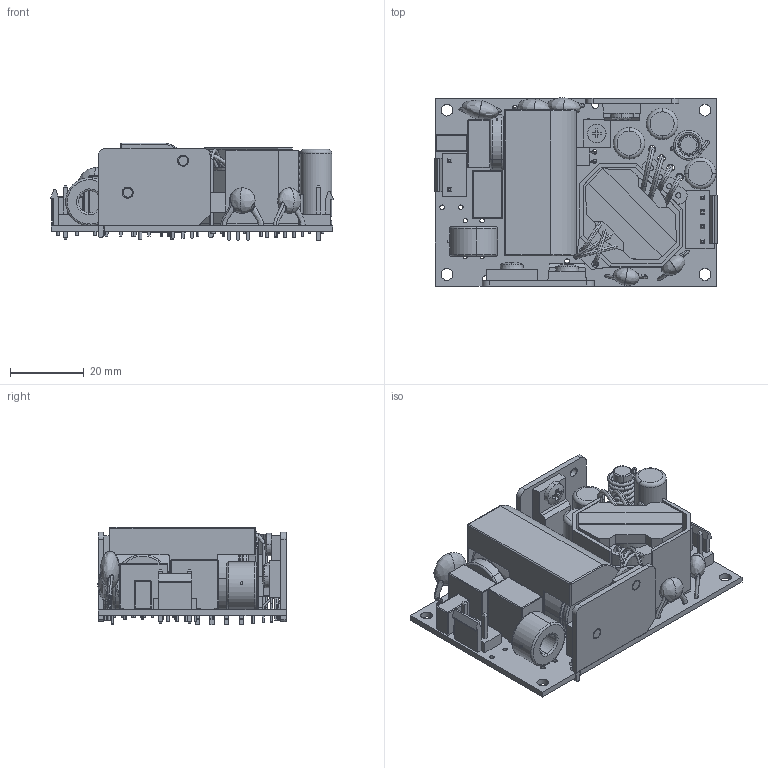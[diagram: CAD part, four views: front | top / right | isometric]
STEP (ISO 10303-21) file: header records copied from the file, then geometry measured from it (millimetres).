
FILE_DESCRIPTION (( 'STEP AP214' ), '1' );
FILE_NAME ('TAD40-V00.STEP', '2017-03-16T06:47:46', ( 'user' ), ( '' ), 'SwSTEP 2.0', 'SolidWorks 2016', '' );
FILE_SCHEMA (( 'AUTOMOTIVE_DESIGN' ));
Length unit declared in the file: millimetre
Products named in the file (1): TAD40-V00
Bounding box: 76.33 x 50.95 x 26.46 mm (x, y, z)
Volume: 39573.6 mm3; surface area: 41945.6 mm2
Topology: 45 solids, 45 shells, 1372 faces, 3359 edges, 2121 vertices
Faces by surface type: plane 686, cylinder 455, torus 102, bspline 82, cone 28, sphere 19
Entity records: 66674 total; most frequent: CARTESIAN_POINT 18318, DIRECTION 6908, ORIENTED_EDGE 6632, EDGE_CURVE 3316, AXIS2_PLACEMENT_3D 2504, VERTEX_POINT 2121, VECTOR 1900, LINE 1900
